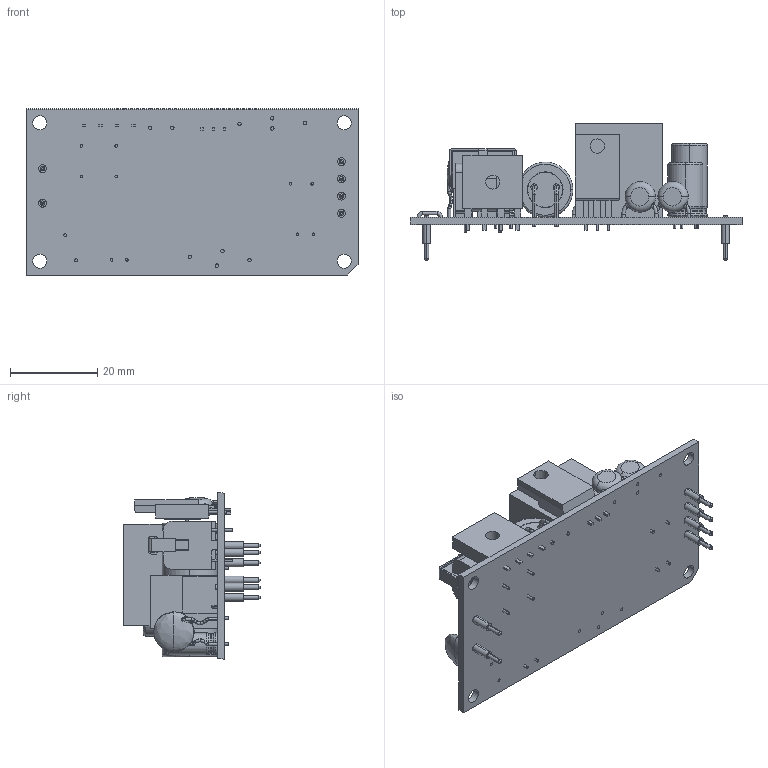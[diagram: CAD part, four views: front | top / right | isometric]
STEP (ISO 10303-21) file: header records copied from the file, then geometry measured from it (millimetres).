
FILE_DESCRIPTION (( 'STEP AP203' ), '1' );
FILE_NAME ('CFM36SBXXX ¦¨«~¹Ï (M-B116-F)(V1.0)-1130715.STEP', '2024-08-20T00:37:03', ( 'cincon' ), ( '' ), 'SwSTEP 2.0', 'SolidWorks 2020', '' );
FILE_SCHEMA (( 'CONFIG_CONTROL_DESIGN' ));
Length unit declared in the file: millimetre
Products named in the file (13): D4; VCE20H L1變壓器示意圖-1090604; Electrolitic Capacitor Radial (5X11.8); 8.2x17mm電容; CFM04 CY1示意圖; 電晶體FCH10A20 TO-220F示意圖; 8x12.6mm電容; CFM36 BR1-1090826; CFM40M UZ2 990210; G7205030099ｶ鷄IN 2018,10,30; CFM36SBXXX 成品圖 (M-B116-F)(V1.0)-1130715; CFM36SBXXX-P(E) PCB-1110610; 12.7x30.7mm電容
Assembly tree (20 placements, depth 2):
  CFM36SBXXX 成品圖 (M-B116-F)(V1.0)-1130715
    CFM36SBXXX-P(E) PCB-1110610
    D4
    Electrolitic Capacitor Radial (5X11.8)
    CFM40M UZ2 990210
    8.2x17mm電容
    8x12.6mm電容
    CFM04 CY1示意圖  x4
    電晶體FCH10A20 TO-220F示意圖
    VCE20H L1變壓器示意圖-1090604
    12.7x30.7mm電容
    CFM36 BR1-1090826
    G7205030099ｶ鷄IN 2018,10,30  x6
Bounding box: 76.2 x 31.3 x 38.1 mm (x, y, z)
Volume: 25176.6 mm3; surface area: 15089.2 mm2
Topology: 20 solids, 20 shells, 649 faces, 1548 edges, 972 vertices
Faces by surface type: plane 266, cylinder 211, torus 104, bspline 52, cone 16
Entity records: 17954 total; most frequent: CARTESIAN_POINT 4184, DIRECTION 2664, ORIENTED_EDGE 2472, EDGE_CURVE 1236, AXIS2_PLACEMENT_3D 995, VERTEX_POINT 782, LINE 674, VECTOR 674
